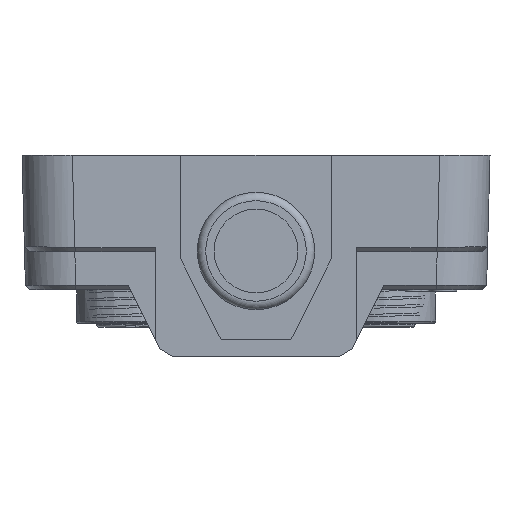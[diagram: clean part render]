
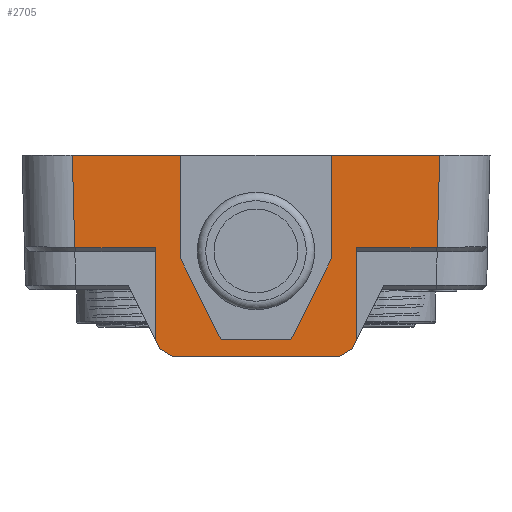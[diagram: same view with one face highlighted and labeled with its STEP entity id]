
A CAD part, left-side view. The second image highlights one B-rep face of the part: STEP entity #2705.
In plain terms, the highlighted planar face has unit normal (-1, 0, 0).
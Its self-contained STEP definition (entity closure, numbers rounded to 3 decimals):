
#336=B_SPLINE_CURVE_WITH_KNOTS('',3,(#28781,#28782,#28783,#28784),
 .UNSPECIFIED.,.F.,.F.,(4,4),(0.,1.),.UNSPECIFIED.);
#337=B_SPLINE_CURVE_WITH_KNOTS('',3,(#28804,#28805,#28806,#28807),
 .UNSPECIFIED.,.F.,.F.,(4,4),(0.,1.),.UNSPECIFIED.);
#2705=ADVANCED_FACE('',(#4411),#3730,.F.);
#3730=PLANE('',#20301);
#4411=FACE_OUTER_BOUND('',#5370,.T.);
#5370=EDGE_LOOP('',(#7917,#7918,#7919,#7920,#7921,#7922,#7923,#7924,#7925,
#7926,#7927,#7928,#7929,#7930,#7931,#7932,#7933,#7934,#7935,#7936));
#7917=ORIENTED_EDGE('',*,*,#14567,.T.);
#7918=ORIENTED_EDGE('',*,*,#14568,.T.);
#7919=ORIENTED_EDGE('',*,*,#14569,.T.);
#7920=ORIENTED_EDGE('',*,*,#14570,.T.);
#7921=ORIENTED_EDGE('',*,*,#14571,.T.);
#7922=ORIENTED_EDGE('',*,*,#14572,.T.);
#7923=ORIENTED_EDGE('',*,*,#14573,.F.);
#7924=ORIENTED_EDGE('',*,*,#14574,.T.);
#7925=ORIENTED_EDGE('',*,*,#14575,.T.);
#7926=ORIENTED_EDGE('',*,*,#14576,.F.);
#7927=ORIENTED_EDGE('',*,*,#14577,.T.);
#7928=ORIENTED_EDGE('',*,*,#14578,.F.);
#7929=ORIENTED_EDGE('',*,*,#14579,.T.);
#7930=ORIENTED_EDGE('',*,*,#14580,.T.);
#7931=ORIENTED_EDGE('',*,*,#14581,.F.);
#7932=ORIENTED_EDGE('',*,*,#14582,.F.);
#7933=ORIENTED_EDGE('',*,*,#14583,.F.);
#7934=ORIENTED_EDGE('',*,*,#14584,.F.);
#7935=ORIENTED_EDGE('',*,*,#14585,.F.);
#7936=ORIENTED_EDGE('',*,*,#14586,.T.);
#12489=VERTEX_POINT('',#28779);
#12490=VERTEX_POINT('',#28780);
#12491=VERTEX_POINT('',#28785);
#12492=VERTEX_POINT('',#28787);
#12493=VERTEX_POINT('',#28789);
#12494=VERTEX_POINT('',#28791);
#12495=VERTEX_POINT('',#28793);
#12496=VERTEX_POINT('',#28795);
#12497=VERTEX_POINT('',#28797);
#12498=VERTEX_POINT('',#28799);
#12499=VERTEX_POINT('',#28801);
#12500=VERTEX_POINT('',#28803);
#12501=VERTEX_POINT('',#28808);
#12502=VERTEX_POINT('',#28810);
#12503=VERTEX_POINT('',#28812);
#12504=VERTEX_POINT('',#28814);
#12505=VERTEX_POINT('',#28816);
#12506=VERTEX_POINT('',#28818);
#12507=VERTEX_POINT('',#28820);
#12508=VERTEX_POINT('',#28822);
#14567=EDGE_CURVE('',#12489,#12490,#16930,.T.);
#14568=EDGE_CURVE('',#12490,#12491,#336,.T.);
#14569=EDGE_CURVE('',#12491,#12492,#16931,.T.);
#14570=EDGE_CURVE('',#12492,#12493,#16932,.T.);
#14571=EDGE_CURVE('',#12493,#12494,#16933,.T.);
#14572=EDGE_CURVE('',#12494,#12495,#16934,.T.);
#14573=EDGE_CURVE('',#12496,#12495,#16935,.T.);
#14574=EDGE_CURVE('',#12496,#12497,#16936,.T.);
#14575=EDGE_CURVE('',#12497,#12498,#16937,.T.);
#14576=EDGE_CURVE('',#12499,#12498,#16938,.T.);
#14577=EDGE_CURVE('',#12499,#12500,#16939,.T.);
#14578=EDGE_CURVE('',#12501,#12500,#337,.T.);
#14579=EDGE_CURVE('',#12501,#12502,#16940,.T.);
#14580=EDGE_CURVE('',#12502,#12503,#16941,.T.);
#14581=EDGE_CURVE('',#12504,#12503,#16942,.T.);
#14582=EDGE_CURVE('',#12505,#12504,#16943,.T.);
#14583=EDGE_CURVE('',#12506,#12505,#16944,.T.);
#14584=EDGE_CURVE('',#12507,#12506,#16945,.T.);
#14585=EDGE_CURVE('',#12508,#12507,#16946,.T.);
#14586=EDGE_CURVE('',#12508,#12489,#16947,.T.);
#16930=LINE('',#28778,#18572);
#16931=LINE('',#28786,#18573);
#16932=LINE('',#28788,#18574);
#16933=LINE('',#28790,#18575);
#16934=LINE('',#28792,#18576);
#16935=LINE('',#28794,#18577);
#16936=LINE('',#28796,#18578);
#16937=LINE('',#28798,#18579);
#16938=LINE('',#28800,#18580);
#16939=LINE('',#28802,#18581);
#16940=LINE('',#28809,#18582);
#16941=LINE('',#28811,#18583);
#16942=LINE('',#28813,#18584);
#16943=LINE('',#28815,#18585);
#16944=LINE('',#28817,#18586);
#16945=LINE('',#28819,#18587);
#16946=LINE('',#28821,#18588);
#16947=LINE('',#28823,#18589);
#18572=VECTOR('',#23241,1.);
#18573=VECTOR('',#23242,1.);
#18574=VECTOR('',#23243,1.);
#18575=VECTOR('',#23244,1.);
#18576=VECTOR('',#23245,1.);
#18577=VECTOR('',#23246,1.);
#18578=VECTOR('',#23247,1.);
#18579=VECTOR('',#23248,1.);
#18580=VECTOR('',#23249,1.);
#18581=VECTOR('',#23250,1.);
#18582=VECTOR('',#23251,1.);
#18583=VECTOR('',#23252,1.);
#18584=VECTOR('',#23253,1.);
#18585=VECTOR('',#23254,1.);
#18586=VECTOR('',#23255,1.);
#18587=VECTOR('',#23256,1.);
#18588=VECTOR('',#23257,1.);
#18589=VECTOR('',#23258,1.);
#20301=AXIS2_PLACEMENT_3D('',#28824,#23259,#23260);
#23241=DIRECTION('',(0.,-0.026,-1.));
#23242=DIRECTION('',(0.,-1.,0.));
#23243=DIRECTION('',(0.,0.,-1.));
#23244=DIRECTION('',(0.,-0.447,-0.894));
#23245=DIRECTION('',(0.,-0.851,-0.526));
#23246=DIRECTION('',(0.,1.,0.));
#23247=DIRECTION('',(0.,-0.851,0.526));
#23248=DIRECTION('',(0.,-0.447,0.894));
#23249=DIRECTION('',(0.,0.,-1.));
#23250=DIRECTION('',(0.,-1.,0.));
#23251=DIRECTION('',(0.,-0.026,1.));
#23252=DIRECTION('',(0.,1.,0.));
#23253=DIRECTION('',(0.,0.,1.));
#23254=DIRECTION('',(0.,-0.447,0.894));
#23255=DIRECTION('',(0.,-1.,0.));
#23256=DIRECTION('',(0.,-0.447,-0.894));
#23257=DIRECTION('',(0.,0.,-1.));
#23258=DIRECTION('',(0.,1.,0.));
#23259=DIRECTION('',(1.,0.,0.));
#23260=DIRECTION('',(0.,0.,-1.));
#28778=CARTESIAN_POINT('',(0.,49.473,18.145));
#28779=CARTESIAN_POINT('',(0.,49.417,16.));
#28780=CARTESIAN_POINT('',(0.,49.129,5.001));
#28781=CARTESIAN_POINT('',(0.,49.129,5.001));
#28782=CARTESIAN_POINT('',(0.,49.086,5.));
#28783=CARTESIAN_POINT('',(0.,49.043,5.));
#28784=CARTESIAN_POINT('',(0.,49.,5.));
#28785=CARTESIAN_POINT('',(0.,49.,5.));
#28786=CARTESIAN_POINT('',(0.,39.5,5.));
#28787=CARTESIAN_POINT('',(0.,39.5,5.));
#28788=CARTESIAN_POINT('',(0.,39.5,4.5));
#28789=CARTESIAN_POINT('',(0.,39.5,-6.));
#28790=CARTESIAN_POINT('',(0.,38.5,-8.));
#28791=CARTESIAN_POINT('',(0.,38.947,-7.106));
#28792=CARTESIAN_POINT('',(0.,37.5,-8.));
#28793=CARTESIAN_POINT('',(0.,37.5,-8.));
#28794=CARTESIAN_POINT('',(0.,12.5,-8.));
#28795=CARTESIAN_POINT('',(0.,17.5,-8.));
#28796=CARTESIAN_POINT('',(0.,17.5,-8.));
#28797=CARTESIAN_POINT('',(0.,16.053,-7.106));
#28798=CARTESIAN_POINT('',(0.,16.5,-8.));
#28799=CARTESIAN_POINT('',(0.,15.5,-6.));
#28800=CARTESIAN_POINT('',(0.,15.5,4.5));
#28801=CARTESIAN_POINT('',(0.,15.5,5.));
#28802=CARTESIAN_POINT('',(0.,6.,5.));
#28803=CARTESIAN_POINT('',(0.,6.,5.));
#28804=CARTESIAN_POINT('',(0.,5.871,5.001));
#28805=CARTESIAN_POINT('',(0.,5.914,5.));
#28806=CARTESIAN_POINT('',(0.,5.957,5.));
#28807=CARTESIAN_POINT('',(0.,6.,5.));
#28808=CARTESIAN_POINT('',(0.,5.871,5.001));
#28809=CARTESIAN_POINT('',(0.,5.565,16.705));
#28810=CARTESIAN_POINT('',(0.,5.583,16.));
#28811=CARTESIAN_POINT('',(0.,55.,16.));
#28812=CARTESIAN_POINT('',(0.,18.498,16.));
#28813=CARTESIAN_POINT('',(0.,18.5,3.653));
#28814=CARTESIAN_POINT('',(0.,18.5,3.653));
#28815=CARTESIAN_POINT('',(0.,20.061,0.53));
#28816=CARTESIAN_POINT('',(0.,23.326,-6.));
#28817=CARTESIAN_POINT('',(0.,55.,-6.));
#28818=CARTESIAN_POINT('',(0.,31.674,-6.));
#28819=CARTESIAN_POINT('',(0.,45.939,22.53));
#28820=CARTESIAN_POINT('',(0.,36.5,3.652));
#28821=CARTESIAN_POINT('',(0.,36.5,16.));
#28822=CARTESIAN_POINT('',(0.,36.5,16.));
#28823=CARTESIAN_POINT('',(0.,55.,16.));
#28824=CARTESIAN_POINT('',(0.,55.,18.));
